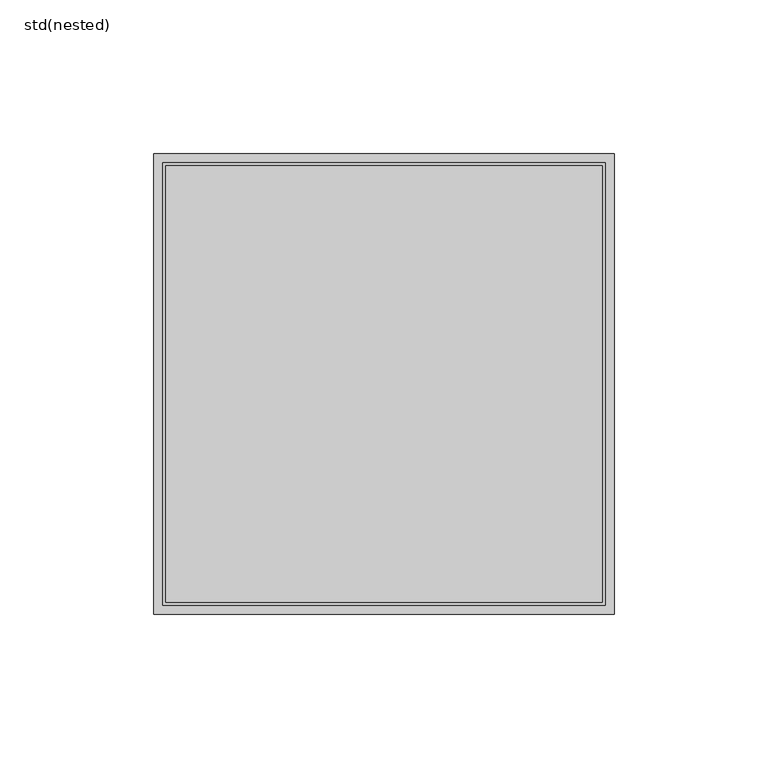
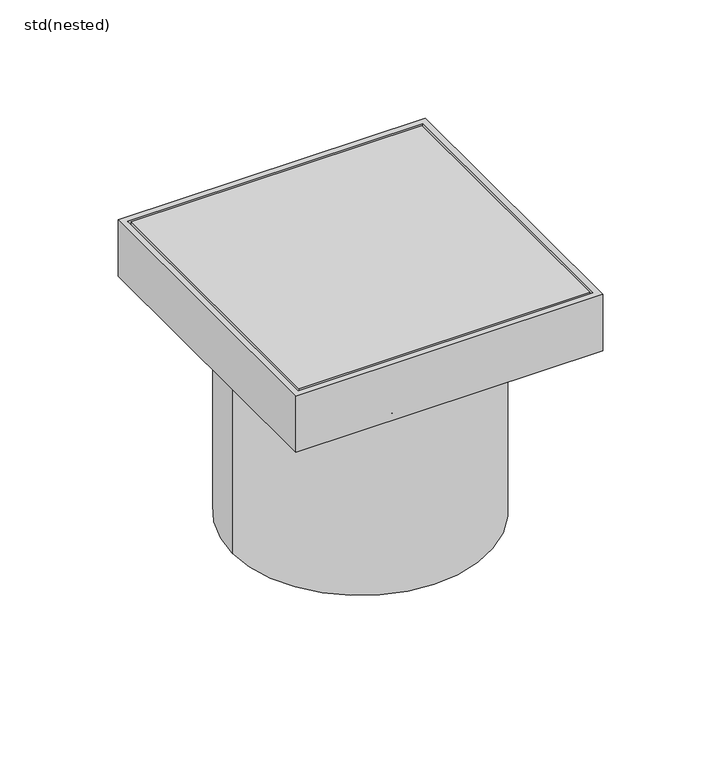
"""IFC4 building model written with IfcOpenShell, lengths in millimetres: sanitary terminal geometry, ZZZ_do not use_PF_ST_WPB_standard attachments grating_CR 142_ACO : std(nested)."""

from ifc_helpers import new_model, si_unit, frame, origin, place, context, project, spatial, polyline, circle_curve, outline, extrude, source, transform, mapped, element, save
from ifc_brep_helpers import plane_surface, cylinder_surface, revolved_surface, advanced_brep


def std_nested_4df2d76e(model_context):
    return source(origin(), model_context, "Body", "SolidModel", [
        extrude(outline(polyline([(15.0186787, 71.0), (15.0186787, -71.0), (-126.9813213, -71.0), (-126.9813213, 71.0), (15.0186787, 71.0)])), frame((0.0, 0.0, -5.2008219), z_axis=(0.0, 0.0, 1.0), x_axis=(1.0, 0.0, 0.0)), (0.0, 0.0, 1.0), 5.2008219),
        advanced_brep(
        [(14.0186787, 0.0, -32.6786128), (-125.9813213, 0.0, -32.6786128), (-125.9813213, 0.0, -29.0), (14.0186787, 0.0, -29.0), (-55.9813213, 0.0, -131.0), (-118.4813213, 0.0, -131.0), (6.5186787, 0.0, -131.0), (-118.4813213, 0.0, -37.9992583), (6.5186787, 0.0, -37.9992583), (16.0186787, 72.0, 0.0), (16.0186787, 72.0, -26.0), (16.0186787, -72.0, -26.0), (16.0186787, -72.0, 0.0), (19.0186787, 75.0, -29.0), (19.0186787, 75.0, 0.0), (19.0186787, -75.0, 0.0), (19.0186787, -75.0, -29.0), (-127.9813213, -72.0, -26.0), (-127.9813213, -72.0, 0.0), (-130.9813213, -75.0, 0.0), (-130.9813213, -75.0, -29.0), (-127.9813213, 72.0, -26.0), (-127.9813213, 72.0, 0.0), (-130.9813213, 75.0, 0.0), (-130.9813213, 75.0, -29.0)],
        [
            (0, 1, circle_curve(frame((-55.9813213, 0.0, -32.6786128), z_axis=(0.0, 0.0, 1.0), x_axis=(-1.0, 0.0, 0.0)), 70.0)),
            (1, 2),
            (2, 3, circle_curve(frame((-55.9813213, 0.0, -29.0), z_axis=(0.0, 0.0, -1.0), x_axis=(-1.0, 0.0, 0.0)), 70.0)),
            (3, 0),
            (1, 0, circle_curve(frame((-55.9813213, 0.0, -32.6786128), z_axis=(0.0, 0.0, 1.0), x_axis=(-1.0, 0.0, 0.0)), 70.0)),
            (3, 2, circle_curve(frame((-55.9813213, 0.0, -29.0), z_axis=(0.0, 0.0, -1.0), x_axis=(-1.0, 0.0, 0.0)), 70.0)),
            (4, 5),
            (5, 6, circle_curve(frame((-55.9813213, 0.0, -131.0), z_axis=(0.0, 0.0, -1.0), x_axis=(-1.0, 0.0, 0.0)), 62.5)),
            (6, 4),
            (6, 5, circle_curve(frame((-55.9813213, 0.0, -131.0), z_axis=(0.0, 0.0, -1.0), x_axis=(-1.0, 0.0, 0.0)), 62.5)),
            (5, 7),
            (7, 8, circle_curve(frame((-55.9813213, 0.0, -37.9992583), z_axis=(0.0, 0.0, -1.0), x_axis=(-1.0, 0.0, 0.0)), 62.5)),
            (8, 6),
            (8, 7, circle_curve(frame((-55.9813213, 0.0, -37.9992583), z_axis=(0.0, 0.0, -1.0), x_axis=(-1.0, 0.0, 0.0)), 62.5)),
            (9, 10),
            (10, 11),
            (11, 12),
            (12, 9),
            (13, 14),
            (14, 15),
            (15, 16),
            (16, 13),
            (11, 17),
            (17, 18),
            (18, 12),
            (15, 19),
            (19, 20),
            (20, 16),
            (17, 21),
            (21, 22),
            (22, 18),
            (19, 23),
            (23, 24),
            (24, 20),
            (24, 13),
            (10, 21),
            (9, 22),
            (14, 23),
            (0, 8),
            (7, 1),
        ],
        [
            cylinder_surface(frame((-55.9813213, 0.0, 74.4772972), z_axis=(0.0, 0.0, -1.0), x_axis=(-1.0, 0.0, 0.0)), 70.0),
            plane_surface(frame((-55.9813213, 0.0, -131.0), z_axis=(0.0, 0.0, -1.0), x_axis=(-1.0, 0.0, 0.0))),
            cylinder_surface(frame((-55.9813213, 0.0, 74.4772972), z_axis=(0.0, 0.0, -1.0), x_axis=(-1.0, 0.0, 0.0)), 62.5),
            plane_surface(frame((16.0186787, 72.0, -26.0), z_axis=(-1.0, 0.0, 0.0), x_axis=(0.0, -1.0, 0.0))),
            plane_surface(frame((19.0186787, 75.0, 0.0), z_axis=(1.0, 0.0, 0.0), x_axis=(0.0, -1.0, 0.0))),
            plane_surface(frame((16.0186787, -72.0, -26.0), z_axis=(0.0, 1.0, 0.0), x_axis=(-1.0, 0.0, 0.0))),
            plane_surface(frame((19.0186787, -75.0, 0.0), z_axis=(0.0, -1.0, 0.0), x_axis=(-1.0, 0.0, 0.0))),
            plane_surface(frame((-127.9813213, -72.0, -26.0), z_axis=(1.0, 0.0, 0.0), x_axis=(0.0, 1.0, 0.0))),
            plane_surface(frame((-130.9813213, -75.0, 0.0), z_axis=(-1.0, 0.0, 0.0), x_axis=(0.0, 1.0, 0.0))),
            plane_surface(frame((-130.9813213, 75.0, -29.0), z_axis=(0.0, 0.0, -1.0), x_axis=(1.0, 0.0, 0.0))),
            plane_surface(frame((-55.9813213, 0.0, -26.0), z_axis=(0.0, 0.0, 1.0), x_axis=(1.0, 0.0, 0.0))),
            plane_surface(frame((-127.9813213, 72.0, -26.0), z_axis=(0.0, -1.0, 0.0), x_axis=(1.0, 0.0, 0.0))),
            plane_surface(frame((-127.9813213, 72.0, 0.0), z_axis=(0.0, 0.0, 1.0), x_axis=(1.0, 0.0, 0.0))),
            plane_surface(frame((-130.9813213, 75.0, 0.0), z_axis=(0.0, 1.0, 0.0), x_axis=(1.0, 0.0, 0.0))),
            revolved_surface(polyline([(-125.9813213, 0.0, -32.6786128), (-118.4813213, 0.0, -37.9992583)]), (-55.9813213, 0.0, 74.4772972), (0.0, 0.0, -1.0)),
        ],
        [
            (0, [[1, 2, 3, 4]]),
            (0, [[-2, 5, -4, 6]]),
            (1, [[7, 8, 9]]),
            (1, [[-7, -9, 10]]),
            (2, [[-8, 11, 12, 13]]),
            (2, [[-10, -13, 14, -11]]),
            (3, [[15, 16, 17, 18]]),
            (4, [[19, 20, 21, 22]]),
            (5, [[-17, 23, 24, 25]]),
            (6, [[-21, 26, 27, 28]]),
            (7, [[-24, 29, 30, 31]]),
            (8, [[-27, 32, 33, 34]]),
            (9, [[-22, -28, -34, 35], [-3, -6]]),
            (10, [[-16, 36, -29, -23]]),
            (11, [[-15, 37, -30, -36]]),
            (12, [[-20, 38, -32, -26], [-18, -25, -31, -37]]),
            (13, [[-19, -35, -33, -38]]),
            (14, [[-1, 39, -12, 40]]),
            (14, [[-5, -40, -14, -39]]),
        ],
    ),
    ])


if __name__ == "__main__":
    model = new_model("IFC4")
    model_context = context("Model", 3, world=origin())
    ifc_project = project(units=[si_unit("LENGTHUNIT", "METRE", prefix="MILLI")], contexts=[model_context])
    site = spatial("IfcSite", under=ifc_project)
    building = spatial("IfcBuilding", under=site)
    placement = place(None, origin())
    std_nested_shape = std_nested_4df2d76e(model_context)
    element("IfcSanitaryTerminal", 1, ObjectType="ZZZ_do not use_PF_ST_WPB_standard attachments grating_CR 142_ACO : std(nested)", at=placement, inside=building, context=model_context, shape_type="MappedRepresentation", body=[
        mapped(std_nested_shape, transform((0.0, 0.0, 0.0), x_axis=(1.0, 0.0, 0.0), y_axis=(0.0, 1.0, 0.0), z_axis=(0.0, 0.0, 1.0))),
    ])
    save(model, "model.ifc")
